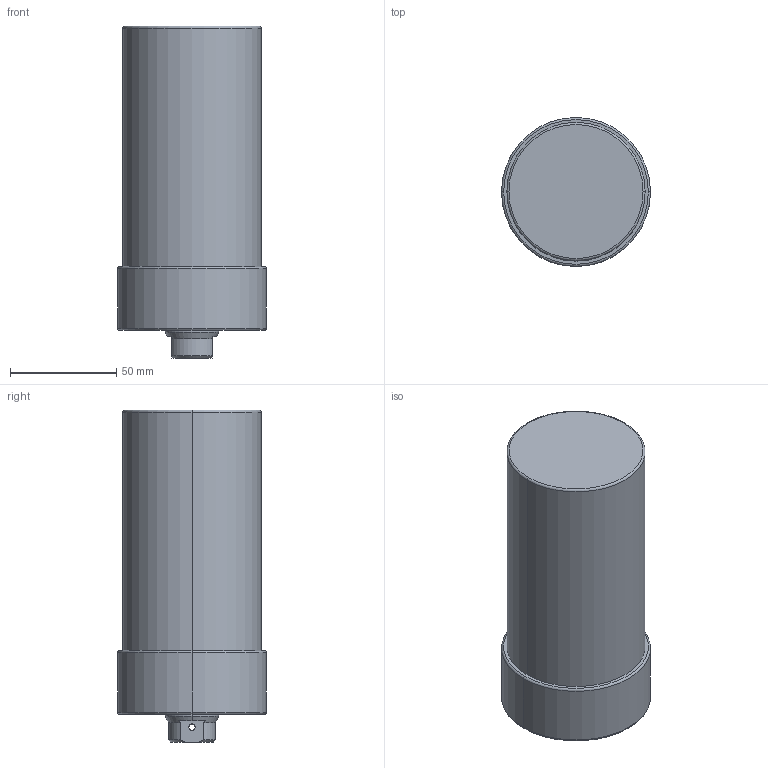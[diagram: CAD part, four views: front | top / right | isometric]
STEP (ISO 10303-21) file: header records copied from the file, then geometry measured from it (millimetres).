
FILE_DESCRIPTION (( 'STEP AP203' ), '1' );
FILE_NAME ('CLLU-065GB-080.STEP', '2020-01-07T06:37:29', ( '' ), ( '' ), 'SwSTEP 2.0', 'SolidWorks 2015', '' );
FILE_SCHEMA (( 'CONFIG_CONTROL_DESIGN' ));
Length unit declared in the file: millimetre
Products named in the file (1): CLLU-065GB-080
Bounding box: 70 x 70 x 156 mm (x, y, z)
Volume: 490793.6 mm3; surface area: 40156.2 mm2
Topology: 1 solids, 1 shells, 66 faces, 154 edges, 87 vertices
Faces by surface type: cylinder 26, cone 24, plane 10, torus 6
Entity records: 2001 total; most frequent: CARTESIAN_POINT 430, DIRECTION 342, ORIENTED_EDGE 288, EDGE_CURVE 144, AXIS2_PLACEMENT_3D 143, VERTEX_POINT 87, EDGE_LOOP 77, CIRCLE 76
